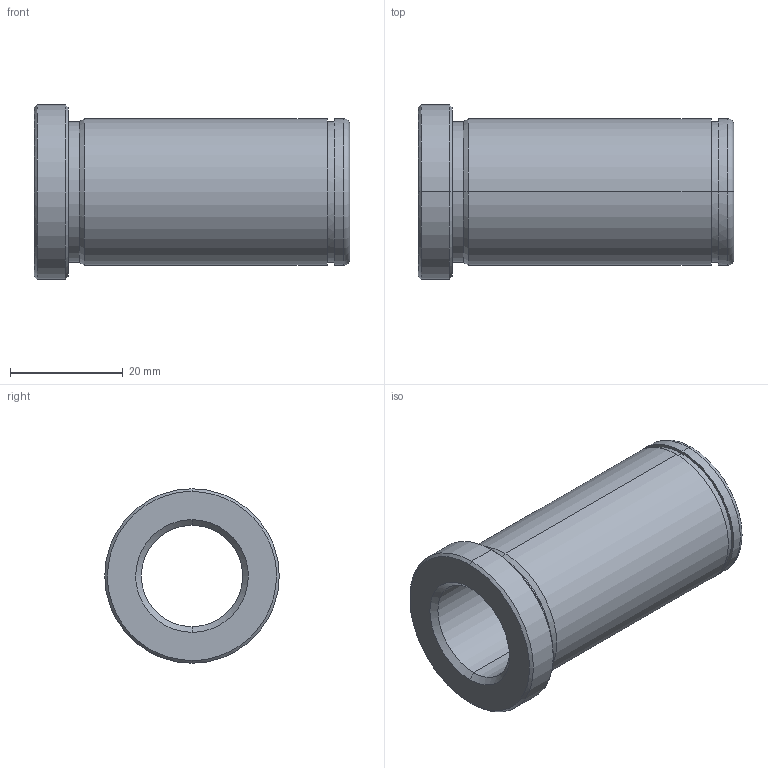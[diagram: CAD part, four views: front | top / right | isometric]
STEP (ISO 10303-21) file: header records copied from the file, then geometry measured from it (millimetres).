
FILE_DESCRIPTION(('CATIA V5 STEP Exchange'),'2;1');
FILE_NAME('C:\Users\Utente\Desktop\IO LAVORO\3D X SITO CF\X SITO\PLASTICA\553\553-18X56.stp','2021-05-23T17:28:59+00:00',('none'),('none'),'CATIA Version 5 Release 20 GA (IN-10)','CATIA V5 STEP AP203','none');
FILE_SCHEMA(('CONFIG_CONTROL_DESIGN'));
Length unit declared in the file: millimetre
Products named in the file (1): 553-18X56
Bounding box: 56 x 31 x 31 mm (x, y, z)
Volume: 16576.2 mm3; surface area: 8794.5 mm2
Topology: 1 solids, 1 shells, 29 faces, 92 edges, 68 vertices
Faces by surface type: cylinder 12, cone 8, plane 5, torus 4
Entity records: 1222 total; most frequent: CARTESIAN_POINT 368, ORIENTED_EDGE 184, DIRECTION 136, EDGE_CURVE 92, AXIS2_PLACEMENT_3D 88, VERTEX_POINT 68, CIRCLE 58, EDGE_LOOP 34
